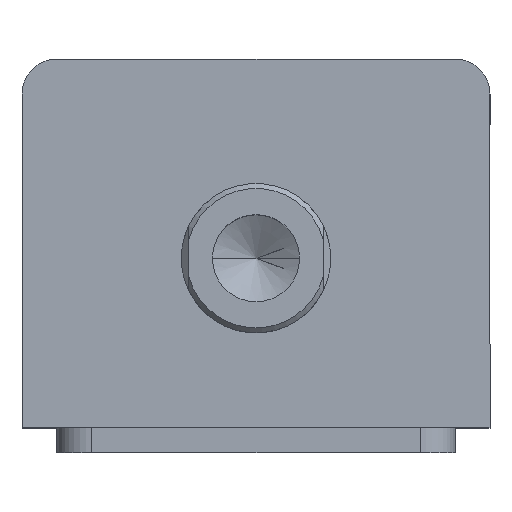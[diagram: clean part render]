
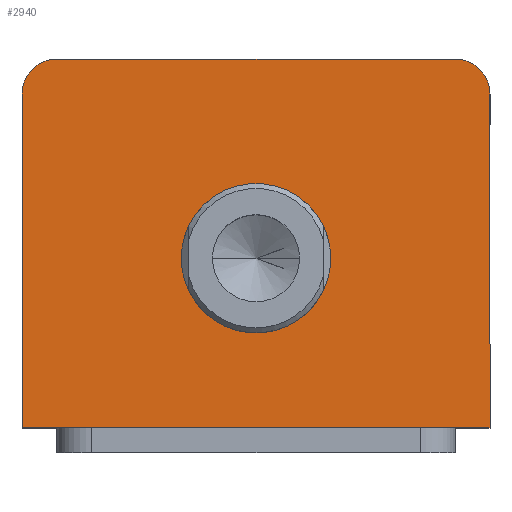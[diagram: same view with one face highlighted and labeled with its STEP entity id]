
A CAD part, top view. The second image highlights one B-rep face of the part: STEP entity #2940.
In plain terms, the highlighted planar face has unit normal (0, 0, 1).
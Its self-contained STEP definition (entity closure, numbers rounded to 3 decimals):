
#27 = VERTEX_POINT ( 'NONE', #2575 ) ;
#323 = CIRCLE ( 'NONE', #1995, 7. ) ;
#333 = CIRCLE ( 'NONE', #1991, 7. ) ;
#339 = LINE ( 'NONE', #1361, #342 ) ;
#342 = VECTOR ( 'NONE', #1358, 1000. ) ;
#373 = VERTEX_POINT ( 'NONE', #2532 ) ;
#440 = EDGE_LOOP ( 'NONE', ( #656, #655 ) ) ;
#448 = EDGE_LOOP ( 'NONE', ( #654, #653, #652, #651, #650, #649 ) ) ;
#649 = ORIENTED_EDGE ( 'NONE', *, *, #1745, .T. ) ;
#650 = ORIENTED_EDGE ( 'NONE', *, *, #1755, .T. ) ;
#651 = ORIENTED_EDGE ( 'NONE', *, *, #2467, .T. ) ;
#652 = ORIENTED_EDGE ( 'NONE', *, *, #1789, .T. ) ;
#653 = ORIENTED_EDGE ( 'NONE', *, *, #1751, .T. ) ;
#654 = ORIENTED_EDGE ( 'NONE', *, *, #1809, .T. ) ;
#655 = ORIENTED_EDGE ( 'NONE', *, *, #2444, .F. ) ;
#656 = ORIENTED_EDGE ( 'NONE', *, *, #1824, .F. ) ;
#670 = VERTEX_POINT ( 'NONE', #2494 ) ;
#769 = VERTEX_POINT ( 'NONE', #2625 ) ;
#771 = VERTEX_POINT ( 'NONE', #2557 ) ;
#814 = LINE ( 'NONE', #1140, #817 ) ;
#817 = VECTOR ( 'NONE', #1131, 1000. ) ;
#848 = LINE ( 'NONE', #1397, #850 ) ;
#850 = VECTOR ( 'NONE', #1396, 1000. ) ;
#862 = CIRCLE ( 'NONE', #1959, 15. ) ;
#991 = CIRCLE ( 'NONE', #2013, 15. ) ;
#1026 = LINE ( 'NONE', #2330, #1029 ) ;
#1029 = VECTOR ( 'NONE', #2329, 1000. ) ;
#1036 = FACE_BOUND ( 'NONE', #440, .T. ) ;
#1041 = FACE_OUTER_BOUND ( 'NONE', #448, .T. ) ;
#1103 = AXIS2_PLACEMENT_3D ( 'NONE', #2319, #2306, #2305 ) ;
#1131 = DIRECTION ( 'NONE',  ( 0., -1., 0. ) ) ;
#1140 = CARTESIAN_POINT ( 'NONE',  ( -47., 37., 105. ) ) ;
#1331 = DIRECTION ( 'NONE',  ( 1., 0., 0. ) ) ;
#1332 = DIRECTION ( 'NONE',  ( 0., 0., 1. ) ) ;
#1335 = CARTESIAN_POINT ( 'NONE',  ( 0., -3., 105. ) ) ;
#1358 = DIRECTION ( 'NONE',  ( 0., 1., 0. ) ) ;
#1361 = CARTESIAN_POINT ( 'NONE',  ( 47., 37., 105. ) ) ;
#1378 = DIRECTION ( 'NONE',  ( 1., 0., 0. ) ) ;
#1379 = DIRECTION ( 'NONE',  ( 0., 0., 1. ) ) ;
#1380 = CARTESIAN_POINT ( 'NONE',  ( -40., 30., 105. ) ) ;
#1389 = CARTESIAN_POINT ( 'NONE',  ( 40., 30., 105. ) ) ;
#1396 = DIRECTION ( 'NONE',  ( -1., 0., 0. ) ) ;
#1397 = CARTESIAN_POINT ( 'NONE',  ( -47., 37., 105. ) ) ;
#1427 = DIRECTION ( 'NONE',  ( 0., 0., 1. ) ) ;
#1428 = DIRECTION ( 'NONE',  ( 1., 0., 0. ) ) ;
#1485 = VERTEX_POINT ( 'NONE', #2604 ) ;
#1486 = VERTEX_POINT ( 'NONE', #2603 ) ;
#1745 = EDGE_CURVE ( 'NONE', #670, #373, #323, .T. ) ;
#1751 = EDGE_CURVE ( 'NONE', #27, #2417, #333, .T. ) ;
#1755 = EDGE_CURVE ( 'NONE', #1486, #670, #339, .T. ) ;
#1789 = EDGE_CURVE ( 'NONE', #2417, #1485, #814, .T. ) ;
#1809 = EDGE_CURVE ( 'NONE', #373, #27, #848, .T. ) ;
#1824 = EDGE_CURVE ( 'NONE', #769, #771, #862, .T. ) ;
#1959 = AXIS2_PLACEMENT_3D ( 'NONE', #1335, #1332, #1331 ) ;
#1991 = AXIS2_PLACEMENT_3D ( 'NONE', #1380, #1379, #1378 ) ;
#1995 = AXIS2_PLACEMENT_3D ( 'NONE', #1389, #1427, #1428 ) ;
#2013 = AXIS2_PLACEMENT_3D ( 'NONE', #2048, #2047, #2044 ) ;
#2044 = DIRECTION ( 'NONE',  ( 1., 0., 0. ) ) ;
#2047 = DIRECTION ( 'NONE',  ( 0., 0., 1. ) ) ;
#2048 = CARTESIAN_POINT ( 'NONE',  ( 0., -3., 105. ) ) ;
#2305 = DIRECTION ( 'NONE',  ( 1., 0., 0. ) ) ;
#2306 = DIRECTION ( 'NONE',  ( 0., 0., 1. ) ) ;
#2315 = PLANE ( 'NONE',  #1103 ) ;
#2319 = CARTESIAN_POINT ( 'NONE',  ( 0., 0., 105. ) ) ;
#2329 = DIRECTION ( 'NONE',  ( 1., 0., 0. ) ) ;
#2330 = CARTESIAN_POINT ( 'NONE',  ( -47., -37., 105. ) ) ;
#2332 = CARTESIAN_POINT ( 'NONE',  ( -47., 30., 105. ) ) ;
#2417 = VERTEX_POINT ( 'NONE', #2332 ) ;
#2444 = EDGE_CURVE ( 'NONE', #771, #769, #991, .T. ) ;
#2467 = EDGE_CURVE ( 'NONE', #1485, #1486, #1026, .T. ) ;
#2494 = CARTESIAN_POINT ( 'NONE',  ( 47., 30., 105. ) ) ;
#2532 = CARTESIAN_POINT ( 'NONE',  ( 40., 37., 105. ) ) ;
#2557 = CARTESIAN_POINT ( 'NONE',  ( -15., -3., 105. ) ) ;
#2575 = CARTESIAN_POINT ( 'NONE',  ( -40., 37., 105. ) ) ;
#2603 = CARTESIAN_POINT ( 'NONE',  ( 47., -37., 105. ) ) ;
#2604 = CARTESIAN_POINT ( 'NONE',  ( -47., -37., 105. ) ) ;
#2625 = CARTESIAN_POINT ( 'NONE',  ( 15., -3., 105. ) ) ;
#2940 = ADVANCED_FACE ( 'NONE', ( #1036, #1041 ), #2315, .T. ) ;
